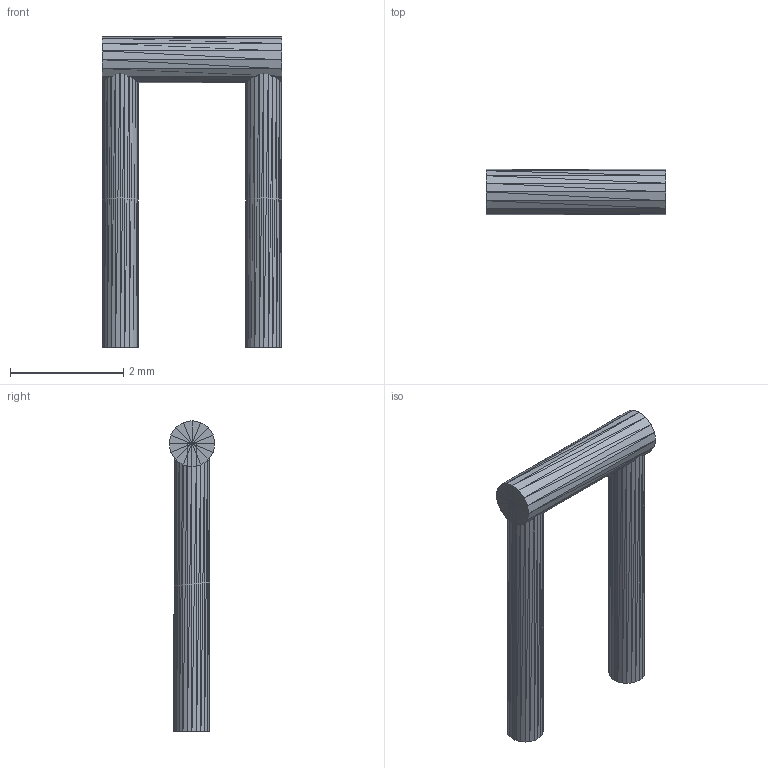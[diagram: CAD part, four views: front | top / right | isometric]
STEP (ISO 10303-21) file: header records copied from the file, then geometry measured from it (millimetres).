
FILE_DESCRIPTION(('HOOPS Exchange Step'),'2;1');
FILE_NAME('***.stp');
FILE_SCHEMA( ('AP242_MANAGED_MODEL_BASED_3D_ENGINEERING_MIM_LF {1 0 10303 442 1 1 4 }') );
Length unit declared in the file: inch
Products named in the file (4): JT100MIL_2; JT100MIL_3; JT100MIL_4; JT100MIL
Assembly tree (3 placements, depth 2):
  JT100MIL
    JT100MIL_2
    JT100MIL_3
    JT100MIL_4
Bounding box: 3.18 x 0.81 x 5.49 mm (x, y, z)
Volume: 1.6 mm3; surface area: 52 mm2
Topology: 1 solids, 385 shells, 448 faces, 384 edges, 134 vertices
Faces by surface type: plane 448
Entity records: 7284 total; most frequent: ORIENTED_EDGE 1344, DIRECTION 1296, CARTESIAN_POINT 974, AXIS2_PLACEMENT_3D 456, PLANE 448, EDGE_LOOP 448, FACE_BOUND 448, ADVANCED_FACE 448
